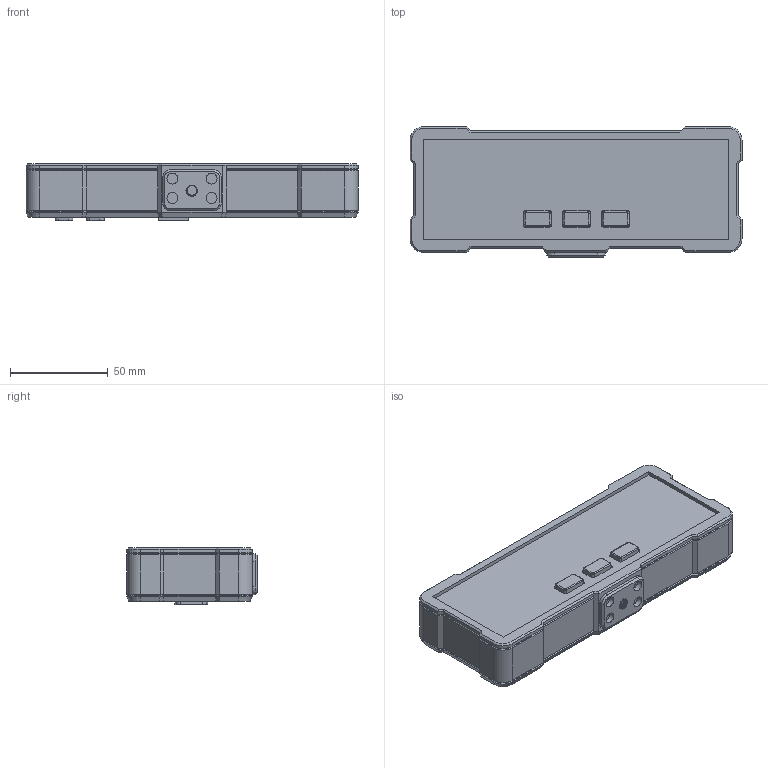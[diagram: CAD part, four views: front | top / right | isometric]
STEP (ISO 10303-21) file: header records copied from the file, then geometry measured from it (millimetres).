
FILE_DESCRIPTION(/* description */ (''),/* implementation_level */ '2;1');
FILE_NAME(/* name */ 'PREDVADECI_B13.step',/* time_stamp */ '2024-03-28T16:05:01+01:00',/* author */ (''),/* organization */ (''),/* preprocessor_version */ 'ST-DEVELOPER v20',/* originating_system */ 'Autodesk Translation Framework v12.20.1.177',/* authorisation */ '');
FILE_SCHEMA (('AUTOMOTIVE_DESIGN { 1 0 10303 214 3 1 1 }'));
Products named in the file (1): PREDVADECI
Bounding box: 169.7 x 66.7 x 29.36 mm (x, y, z)
Volume: 244887.8 mm3; surface area: 41345.1 mm2
Topology: 1 solids, 9 shells, 1861 faces, 4679 edges, 2925 vertices
Faces by surface type: plane 777, cylinder 438, bspline 422, torus 124, sphere 58, cone 42
Full cylindrical faces by diameter (mm): 0.84 x18, 1.04 x18, 1.14 x18, 1.983 x6, 2 x6, 3 x4, 3.1 x4, 5.035 x3, 5.6 x4, 6.147 x1
Entity records: 80192 total; most frequent: CARTESIAN_POINT 38809, ORIENTED_EDGE 9250, DIRECTION 7433, EDGE_CURVE 4625, VERTEX_POINT 2925, AXIS2_PLACEMENT_3D 2564, LINE 2305, VECTOR 2305
